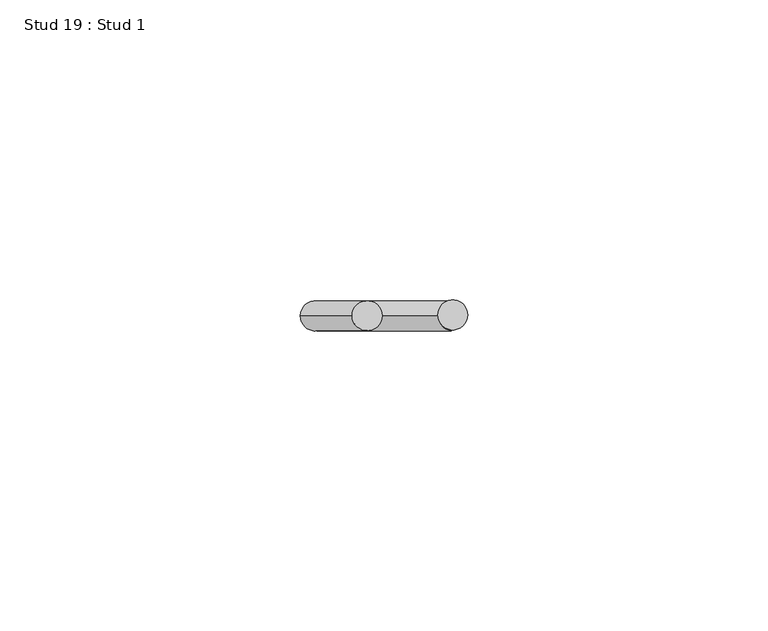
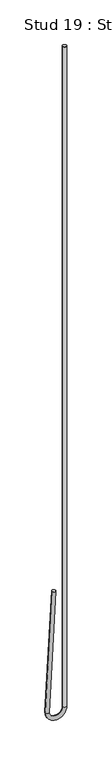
"""IFC4 building model written with IfcOpenShell, lengths in millimetres: proxy geometry, Stud 19 : Stud 1."""

import ifcopenshell
import ifcopenshell.guid

model = None  # the IFC model being written
_history = None  # IfcOwnerHistory: only IFC2X3 demands one
_inside = {}  # id of a spatial element -> (the spatial element, [elements in it])
_under = {}  # id of a project, library or spatial element -> (it, [spatial elements below it])
_declared = {}  # id of a project -> (the project, [libraries it declares])
_typed = {}  # id of a type object -> (the type object, [elements of that type])
_made_of = {}  # id of a material, layer set ... -> (it, [elements and type objects made of it])


def new_model(schema):
    """Start an empty IFC model of exactly this schema.

    Asked for "IFC4X3", IfcOpenShell would pick the latest addendum, in which some entities
    have other attributes; the version numbers below select the first issue.
    IFC2X3 requires an IfcOwnerHistory on every rooted entity: one is made here for all.
    """
    global model, _history
    if schema == "IFC4X3":
        model = ifcopenshell.file(schema_version=(4, 3, 0, 0))
    else:
        model = ifcopenshell.file(schema=schema)
    _inside.clear()
    _under.clear()
    _declared.clear()
    _typed.clear()
    _made_of.clear()
    _history = None
    if model.schema == "IFC2X3":
        org = make("IfcOrganization", Name="unknown")
        user = make(
            "IfcPersonAndOrganization",
            ThePerson=make("IfcPerson", FamilyName="unknown"),
            TheOrganization=org,
        )
        app = make(
            "IfcApplication",
            ApplicationDeveloper=org,
            Version="unknown",
            ApplicationFullName="unknown",
            ApplicationIdentifier="unknown",
        )
        _history = make(
            "IfcOwnerHistory",
            OwningUser=user,
            OwningApplication=app,
            ChangeAction="ADDED",
            CreationDate=0,
        )
    return model


def make(cls, **values):
    """One entity of the class cls with the attributes given. An attribute that is None is left unset."""
    return model.create_entity(
        cls, **{name: value for name, value in values.items() if value is not None}
    )


def rooted(cls, **values):
    """An entity with a GlobalId (a new one), such as an element, a storey or a relation."""
    return make(cls, GlobalId=ifcopenshell.guid.new(), OwnerHistory=_history, **values)


def si_unit(unit_type, name, prefix=None):
    """IfcSIUnit, for example si_unit("LENGTHUNIT", "METRE", prefix="MILLI")."""
    return make("IfcSIUnit", UnitType=unit_type, Prefix=prefix, Name=name)


def assignment(units):
    """IfcUnitAssignment: the units of a project."""
    return None if units is None else make("IfcUnitAssignment", Units=units)


def point(xyz):
    """IfcCartesianPoint."""
    return None if xyz is None else make("IfcCartesianPoint", Coordinates=xyz)


def direction(xyz):
    """IfcDirection."""
    return None if xyz is None else make("IfcDirection", DirectionRatios=xyz)


def frame(location, z_axis=None, x_axis=None):
    """IfcAxis2Placement3D, a coordinate frame: its origin and axes. An axis left out is left unset."""
    return make(
        "IfcAxis2Placement3D",
        Location=point(location),
        Axis=direction(z_axis),
        RefDirection=direction(x_axis),
    )


def origin():
    """The frame at (0, 0, 0) with its axes left unset."""
    return frame((0.0, 0.0, 0.0))


def place(relative_to, where):
    """IfcLocalPlacement: puts the frame where relative to a parent placement (None: the world)."""
    return make(
        "IfcLocalPlacement", PlacementRelTo=relative_to, RelativePlacement=where
    )


def context(
    kind, dimensions, precision=None, world=None, true_north=None, identifier=None
):
    """IfcGeometricRepresentationContext, for example the 3D "Model" context."""
    return make(
        "IfcGeometricRepresentationContext",
        ContextIdentifier=identifier,
        ContextType=kind,
        CoordinateSpaceDimension=dimensions,
        Precision=precision,
        WorldCoordinateSystem=world,
        TrueNorth=true_north,
    )


def project(units=None, contexts=None):
    """IfcProject with its units and contexts."""
    return rooted(
        "IfcProject",
        Name="project",
        RepresentationContexts=contexts,
        UnitsInContext=assignment(units),
    )


def spatial(cls, under=None, at=None, **own):
    """A site, building, storey or space (cls), placed at a placement, below another one or the project."""
    s = rooted(cls, ObjectPlacement=at, **own)
    if under is not None:
        _under.setdefault(under.id(), (under, []))[1].append(s)
    return s


def circle_curve(where, radius):
    """IfcCircle in the frame where."""
    return make("IfcCircle", Position=where, Radius=radius)


def ellipse_curve(where, semi_axis1, semi_axis2):
    """IfcEllipse in the frame where."""
    return make(
        "IfcEllipse", Position=where, SemiAxis1=semi_axis1, SemiAxis2=semi_axis2
    )


def trimmed(basis, trim1, trim2, sense, master):
    """IfcTrimmedCurve: the piece of a basis curve between two trims."""
    return make(
        "IfcTrimmedCurve",
        BasisCurve=basis,
        Trim1=trim1,
        Trim2=trim2,
        SenseAgreement=sense,
        MasterRepresentation=master,
    )


def shape(context_of_items, identifier, shape_type, items):
    """IfcShapeRepresentation: the items that make up one representation, for example the "Body"."""
    return make(
        "IfcShapeRepresentation",
        ContextOfItems=context_of_items,
        RepresentationIdentifier=identifier,
        RepresentationType=shape_type,
        Items=items,
    )


def source(mapping_origin, context_of_items, identifier, shape_type, items):
    """IfcRepresentationMap: a shape defined once, which mapped items show again and again."""
    return make(
        "IfcRepresentationMap",
        MappingOrigin=mapping_origin,
        MappedRepresentation=shape(context_of_items, identifier, shape_type, items),
    )


def transform(
    local_origin,
    x_axis=None,
    y_axis=None,
    z_axis=None,
    scale=None,
    scale2=None,
    scale3=None,
    uniform=True,
):
    """IfcCartesianTransformationOperator3D, or its non-uniform kind. x_axis, y_axis, z_axis: its Axis1, 2, 3."""
    if uniform:
        return make(
            "IfcCartesianTransformationOperator3D",
            Axis1=direction(x_axis),
            Axis2=direction(y_axis),
            LocalOrigin=point(local_origin),
            Scale=scale,
            Axis3=direction(z_axis),
        )
    return make(
        "IfcCartesianTransformationOperator3DnonUniform",
        Axis1=direction(x_axis),
        Axis2=direction(y_axis),
        LocalOrigin=point(local_origin),
        Scale=scale,
        Axis3=direction(z_axis),
        Scale2=scale2,
        Scale3=scale3,
    )


def mapped(mapping_source, mapping_target):
    """IfcMappedItem: shows the shape of a source again, moved by a transform."""
    return make(
        "IfcMappedItem", MappingSource=mapping_source, MappingTarget=mapping_target
    )


def made_of(thing, what):
    """Note that an element or type object is made of a material, layer set ...; save() writes the relation."""
    if what is not None:
        _made_of.setdefault(what.id(), (what, []))[1].append(thing)
    return thing


def element(
    cls,
    number,
    at=None,
    inside=None,
    cuts=None,
    type_object=None,
    material=None,
    context=None,
    identifier="Body",
    shape_type=None,
    held_by="IfcProductDefinitionShape",
    body=None,
    shapes=None,
    **own,
):
    """One element of the class cls, such as IfcWall. Its Tag is "e" and its number.

    at: its placement. inside: the storey or other place that contains it. cuts: it is an
    opening in that element (IfcRelVoidsElement). A single representation is given by context,
    identifier, shape_type and body (its items); several are given by shapes. held_by: the class
    of the entity that holds the representations. save() writes the other relations.
    """
    e = rooted(cls, Tag="e%d" % number, ObjectPlacement=at, **own)
    if body is not None:
        shapes = [shape(context, identifier, shape_type, body)]
    if shapes is not None:
        e.Representation = make(held_by, Representations=shapes)
    if inside is not None:
        _inside.setdefault(inside.id(), (inside, []))[1].append(e)
    if cuts is not None:
        rooted(
            "IfcRelVoidsElement", RelatingBuildingElement=cuts, RelatedOpeningElement=e
        )
    if type_object is not None:
        _typed.setdefault(type_object.id(), (type_object, []))[1].append(e)
    return made_of(e, material)


def aggregate(whole, parts):
    """IfcRelAggregates: a whole, such as a stair, and the parts it consists of."""
    return rooted("IfcRelAggregates", RelatingObject=whole, RelatedObjects=parts)


def save(model, path):
    """Write the relations noted so far, then the file.

    IfcRelAggregates (storeys below a building ...), IfcRelContainedInSpatialStructure (elements
    in a storey), IfcRelDefinesByType, IfcRelAssociatesMaterial and IfcRelDeclares: one each for
    every whole, place, type object, material and project.
    """
    for whole, parts in _under.values():
        aggregate(whole, parts)
    for where, things in _inside.values():
        rooted(
            "IfcRelContainedInSpatialStructure",
            RelatedElements=things,
            RelatingStructure=where,
        )
    for kind, things in _typed.values():
        rooted("IfcRelDefinesByType", RelatedObjects=things, RelatingType=kind)
    for what, things in _made_of.values():
        rooted("IfcRelAssociatesMaterial", RelatedObjects=things, RelatingMaterial=what)
    for by, libraries in _declared.values():
        rooted("IfcRelDeclares", RelatingContext=by, RelatedDefinitions=libraries)
    model.write(path)


def plane_surface(at):
    """IfcPlane: the flat surface through the origin of the frame at, square to its z axis."""
    return make("IfcPlane", Position=at)


def cylinder_surface(at, radius):
    """IfcCylindricalSurface: all points at the distance radius from the z axis of the frame at."""
    return make("IfcCylindricalSurface", Position=at, Radius=radius)


def revolved_surface(curve, axis_point, axis_direction):
    """IfcSurfaceOfRevolution: the curve turned about the line through axis_point along axis_direction."""
    return make(
        "IfcSurfaceOfRevolution",
        SweptCurve=make("IfcArbitraryOpenProfileDef", ProfileType="CURVE", Curve=curve),
        AxisPosition=make("IfcAxis1Placement", Location=point(axis_point), Axis=direction(axis_direction)),
    )


def advanced_brep(points, edges, surfaces, faces):
    """IfcAdvancedBrep: a solid bounded by faces that lie on surfaces and meet in shared edges.

    An edge is (start, end): straight between two places in points (the first is 0);
    or (start, end, curve); or (start, end, curve, False) where it runs against its curve.
    A face is (place in surfaces, loops), or (place, loops, False) where it looks against
    its surface's normal. A loop lists edges by number (the first is 1), with a minus sign
    where the edge is run from its end to its start. The first loop is the outer one.
    """
    corners = [point(p) for p in points]
    vertices = [make("IfcVertexPoint", VertexGeometry=c) for c in corners]
    made = []
    for start, end, *more in edges:
        made.append(
            make(
                "IfcEdgeCurve",
                EdgeStart=vertices[start],
                EdgeEnd=vertices[end],
                EdgeGeometry=more[0] if more else make("IfcPolyline", Points=[corners[start], corners[end]]),
                SameSense=more[1] if len(more) > 1 else True,
            )
        )
    hull = []
    for where, loops, *sense in faces:
        bounds = []
        for j, loop in enumerate(loops):
            ring = [make("IfcOrientedEdge", EdgeElement=made[abs(k) - 1], Orientation=k > 0) for k in loop]
            bounds.append(
                make(
                    "IfcFaceOuterBound" if j == 0 else "IfcFaceBound",
                    Bound=make("IfcEdgeLoop", EdgeList=ring),
                    Orientation=True,
                )
            )
        hull.append(make("IfcAdvancedFace", Bounds=bounds, FaceSurface=surfaces[where], SameSense=sense[0] if sense else True))
    return make("IfcAdvancedBrep", Outer=make("IfcClosedShell", CfsFaces=hull))


def stud_19_stud_1_fe36b6ed(model_context):
    return source(origin(), model_context, "Body", "AdvancedBrep", [
        advanced_brep(
        [(-12209.2532788, 12082.5191481, 3640.800192), (-12204.2601311, 12082.5191481, 3640.5385122), (-12217.8939451, 12082.5191481, 3475.9264558), (-12212.9007975, 12082.5191481, 3475.664776), (-12194.9920812, 12082.5191481, 3475.7956159), (-12189.9920812, 12082.5191481, 3475.7956159), (-12189.9920812, 12082.5191481, 4390.1956159), (-12194.9920812, 12082.5191481, 4390.1956159)],
        [
            (0, 1, circle_curve(frame((-12206.7567049, 12082.5191481, 3640.6693521), z_axis=(0.05233595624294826, 0.0, 0.9986295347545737), x_axis=(0.9986295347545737, 0.0, -0.05233595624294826)), 2.5)),
            (1, 0, circle_curve(frame((-12206.7567049, 12082.5191481, 3640.6693521), z_axis=(0.05233595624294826, 0.0, 0.9986295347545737), x_axis=(0.9986295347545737, 0.0, -0.05233595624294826)), 2.5)),
            (0, 2),
            (2, 3, circle_curve(frame((-12215.3973713, 12082.5191481, 3475.7956159), z_axis=(0.05233595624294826, 0.0, 0.9986295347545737), x_axis=(0.9986295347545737, 0.0, -0.05233595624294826)), 2.5)),
            (3, 1),
            (3, 2, circle_curve(frame((-12215.3973713, 12082.5191481, 3475.7956159), z_axis=(0.05233595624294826, 0.0, 0.9986295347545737), x_axis=(0.9986295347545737, 0.0, -0.05233595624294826)), 2.5)),
            (4, 3, circle_curve(frame((-12203.9447263, 12082.5191481, 3475.7956159), z_axis=(0.0, 1.0, 0.0), x_axis=(-1.0, 0.0, 0.0)), 8.952645)),
            (2, 5, circle_curve(frame((-12203.9447263, 12082.5191481, 3475.7956159), z_axis=(0.0, -1.0, 0.0), x_axis=(-1.0, 0.0, 0.0)), 13.952645)),
            (5, 4, circle_curve(frame((-12192.4920812, 12082.5191481, 3475.7956159), z_axis=(0.0, 0.0, -1.0), x_axis=(-1.0, 0.0, 0.0)), 2.5)),
            (4, 5, circle_curve(frame((-12192.4920812, 12082.5191481, 3475.7956159), z_axis=(0.0, 0.0, -1.0), x_axis=(-1.0, 0.0, 0.0)), 2.5)),
            (6, 7, circle_curve(frame((-12192.4920812, 12082.5191481, 4390.1956159), z_axis=(0.0, 0.0, 1.0), x_axis=(-1.0, 0.0, 0.0)), 2.5)),
            (7, 6, circle_curve(frame((-12192.4920812, 12082.5191481, 4390.1956159), z_axis=(0.0, 0.0, 1.0), x_axis=(-1.0, 0.0, 0.0)), 2.5)),
            (5, 6),
            (7, 4),
        ],
        [
            plane_surface(frame((-12206.7567049, 12676.2441481, 3640.6693521), z_axis=(0.05233595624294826, 0.0, 0.9986295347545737), x_axis=(0.0, -1.0, 0.0))),
            cylinder_surface(frame((-12206.7567049, 12082.5191481, 3640.6693521), z_axis=(0.05233595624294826, 0.0, 0.9986295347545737), x_axis=(0.9986295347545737, 0.0, -0.05233595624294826)), 2.5),
            revolved_surface(trimmed(ellipse_curve(frame((-12215.3973713, 12082.5191481, 3475.7956159), z_axis=(0.0, 0.0, 1.0), x_axis=(1.0, 0.0, 0.0)), 2.5, 2.5), [point((-12217.8973713, 12082.5191481, 3475.7956159))], [point((-12212.8973713, 12082.5191481, 3475.7956159))], True, "CARTESIAN"), (-12203.9447263, 12676.2441481, 3475.7956159), (0.0, -1.0, 0.0)),
            revolved_surface(trimmed(ellipse_curve(frame((-12215.3973713, 12082.5191481, 3475.7956159), z_axis=(0.0, 0.0, 1.0), x_axis=(1.0, 0.0, 0.0)), 2.5, 2.5), [point((-12212.8973713, 12082.5191481, 3475.7956159))], [point((-12217.8973713, 12082.5191481, 3475.7956159))], True, "CARTESIAN"), (-12203.9447263, 12676.2441481, 3475.7956159), (0.0, -1.0, 0.0)),
            plane_surface(frame((-12192.4920812, 12676.2441481, 4390.1956159), z_axis=(0.0, 0.0, 1.0), x_axis=(0.0, -1.0, 0.0))),
            cylinder_surface(frame((-12192.4920812, 12082.5191481, 3475.7956159), z_axis=(0.0, 0.0, -1.0), x_axis=(-1.0, 0.0, 0.0)), 2.5),
        ],
        [
            (0, [[1, 2]]),
            (1, [[-1, 3, 4, 5]]),
            (1, [[-2, -5, 6, -3]]),
            (2, [[7, -4, 8, 9]]),
            (3, [[-8, -6, -7, 10]]),
            (4, [[11, 12]]),
            (5, [[-9, 13, -12, 14]]),
            (5, [[-10, -14, -11, -13]]),
        ],
    ),
    ])


if __name__ == "__main__":
    model = new_model("IFC4")
    model_context = context("Model", 3, world=origin())
    ifc_project = project(units=[si_unit("LENGTHUNIT", "METRE", prefix="MILLI")], contexts=[model_context])
    site = spatial("IfcSite", under=ifc_project)
    building = spatial("IfcBuilding", under=site)
    placement = place(None, origin())
    stud_19_stud_1_shape = stud_19_stud_1_fe36b6ed(model_context)
    element("IfcBuildingElementProxy", 1, Name="Stud 19 : Stud 1", ObjectType="Stud 19 : Stud 1", at=placement, inside=building, context=model_context, shape_type="MappedRepresentation", body=[
        mapped(stud_19_stud_1_shape, transform((0.0, 0.0, 0.0), x_axis=(1.0, 0.0, 0.0), y_axis=(0.0, 1.0, 0.0), z_axis=(0.0, 0.0, 1.0))),
    ])
    save(model, "model.ifc")
